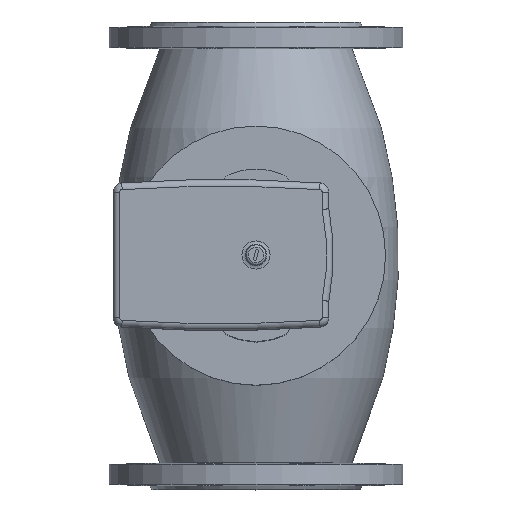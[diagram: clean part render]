
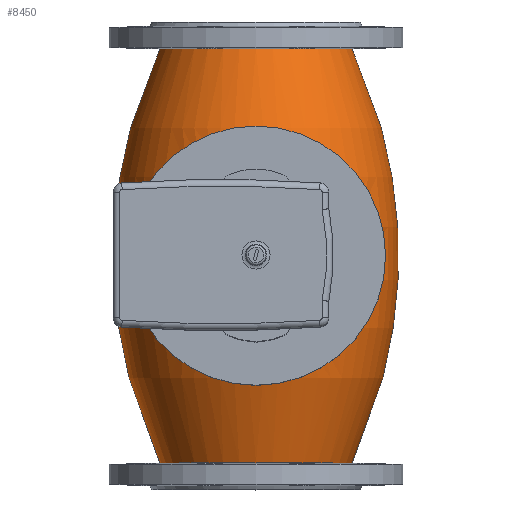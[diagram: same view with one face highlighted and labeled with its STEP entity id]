
A CAD part, top view. The second image highlights one B-rep face of the part: STEP entity #8450.
In plain terms, the highlighted toroidal (fillet/blend) face has major radius 254.79 mm and minor radius 361.583 mm.
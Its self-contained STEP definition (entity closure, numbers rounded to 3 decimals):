
#25=DEGENERATE_TOROIDAL_SURFACE('',#9136,254.79,361.583,
 .F.);
#1097=B_SPLINE_CURVE_WITH_KNOTS('',3,(#10983,#10984,#10985,#10986,#10987,
#10988,#10989,#10990,#10991,#10992,#10993,#10994,#10995,#10996,#10997,#10998,
#10999,#11000,#11001,#11002,#11003,#11004,#11005,#11006,#11007,#11008,#11009,
#11010,#11011,#11012,#11013,#11014,#11015,#11016,#11017,#11018,#11019,#11020,
#11021,#11022,#11023,#11024,#11025,#11026,#11027,#11028,#11029,#11030,#11031,
#11032,#11033,#11034,#11035,#11036,#11037,#11038,#11039,#11040,#11041,#11042,
#11043,#11044,#11045,#11046,#11047,#11048,#11049,#11050,#11051),
 .UNSPECIFIED.,.T.,.F.,(1,1,1,1,1,1,1,1,1,1,1,1,1,1,1,1,1,1,1,1,1,1,1,1,
1,1,1,1,1,1,1,1,1,1,1,1,1,1,1,1,1,1,1,1,1,1,1,1,1,1,1,1,1,1,1,1,1,1,1,1,
1,1,1,1,1,1,1,1,1,1,1,1,1),(-0.025,-0.017,-0.008,
0.,0.008,0.017,0.025,0.034,
0.042,0.051,0.059,0.068,
0.085,0.089,0.093,0.101,
0.11,0.118,0.127,0.135,
0.144,0.152,0.161,0.169,
0.178,0.186,0.195,0.203,
0.211,0.22,0.224,0.228,
0.237,0.245,0.254,0.262,
0.271,0.279,0.288,0.296,
0.304,0.313,0.321,0.33,
0.338,0.347,0.351,0.355,
0.364,0.372,0.376,0.381,
0.389,0.397,0.406,0.414,
0.423,0.431,0.44,0.448,
0.457,0.474,0.482,0.491,
0.499,0.507,0.516,0.524,
0.533,0.541,0.55,0.558,
0.567),.UNSPECIFIED.);
#2671=ORIENTED_EDGE('',*,*,#3546,.F.);
#2672=ORIENTED_EDGE('',*,*,#3547,.F.);
#2673=ORIENTED_EDGE('',*,*,#2798,.F.);
#2798=EDGE_CURVE('',#3610,#3610,#1097,.T.);
#3546=EDGE_CURVE('',#4099,#4099,#4463,.F.);
#3547=EDGE_CURVE('',#4100,#4100,#4464,.F.);
#3610=VERTEX_POINT('',#11052);
#4099=VERTEX_POINT('',#12842);
#4100=VERTEX_POINT('',#12844);
#4463=CIRCLE('',#9137,71.891);
#4464=CIRCLE('',#9138,71.88);
#4879=EDGE_LOOP('',(#2671));
#4880=EDGE_LOOP('',(#2672));
#4881=EDGE_LOOP('',(#2673));
#5378=FACE_BOUND('',#4879,.T.);
#5379=FACE_BOUND('',#4880,.T.);
#5380=FACE_BOUND('',#4881,.T.);
#8450=ADVANCED_FACE('',(#5378,#5379,#5380),#25,.F.);
#9136=AXIS2_PLACEMENT_3D('',#12840,#10862,#10863);
#9137=AXIS2_PLACEMENT_3D('',#12841,#10864,#10865);
#9138=AXIS2_PLACEMENT_3D('',#12843,#10866,#10867);
#10862=DIRECTION('',(0.,1.,0.));
#10863=DIRECTION('',(0.,0.,1.));
#10864=DIRECTION('',(0.,-1.,0.));
#10865=DIRECTION('',(0.,0.,-1.));
#10866=DIRECTION('',(0.,1.,0.));
#10867=DIRECTION('',(0.,0.,1.));
#10983=CARTESIAN_POINT('',(-58.277,-23.282,-168.591));
#10984=CARTESIAN_POINT('',(-54.535,-30.541,-165.88));
#10985=CARTESIAN_POINT('',(-50.183,-37.291,-163.004));
#10986=CARTESIAN_POINT('',(-45.272,-43.527,-160.076));
#10987=CARTESIAN_POINT('',(-39.794,-49.281,-157.164));
#10988=CARTESIAN_POINT('',(-33.673,-54.589,-154.315));
#10989=CARTESIAN_POINT('',(-27.094,-59.265,-151.686));
#10990=CARTESIAN_POINT('',(-20.074,-63.304,-149.332));
#10991=CARTESIAN_POINT('',(-12.587,-66.701,-147.296));
#10992=CARTESIAN_POINT('',(-1.909,-70.31,-145.087));
#10993=CARTESIAN_POINT('',(7.706,-72.021,-144.012));
#10994=CARTESIAN_POINT('',(16.196,-72.454,-143.74));
#10995=CARTESIAN_POINT('',(21.938,-72.453,-143.741));
#10996=CARTESIAN_POINT('',(29.002,-71.906,-144.085));
#10997=CARTESIAN_POINT('',(37.29,-70.423,-145.01));
#10998=CARTESIAN_POINT('',(45.453,-68.095,-146.447));
#10999=CARTESIAN_POINT('',(53.18,-65.024,-148.307));
#11000=CARTESIAN_POINT('',(60.469,-61.269,-150.527));
#11001=CARTESIAN_POINT('',(67.372,-56.811,-153.079));
#11002=CARTESIAN_POINT('',(73.681,-51.807,-155.827));
#11003=CARTESIAN_POINT('',(79.44,-46.277,-158.709));
#11004=CARTESIAN_POINT('',(84.694,-40.169,-161.685));
#11005=CARTESIAN_POINT('',(89.307,-33.633,-164.602));
#11006=CARTESIAN_POINT('',(93.279,-26.694,-167.366));
#11007=CARTESIAN_POINT('',(96.619,-19.315,-169.891));
#11008=CARTESIAN_POINT('',(99.299,-11.412,-172.067));
#11009=CARTESIAN_POINT('',(101.178,-3.291,-173.679));
#11010=CARTESIAN_POINT('',(102.081,3.72,-174.483));
#11011=CARTESIAN_POINT('',(102.374,9.455,-174.745));
#11012=CARTESIAN_POINT('',(102.373,15.128,-174.744));
#11013=CARTESIAN_POINT('',(101.843,22.148,-174.267));
#11014=CARTESIAN_POINT('',(100.349,30.525,-172.957));
#11015=CARTESIAN_POINT('',(98.069,38.539,-171.049));
#11016=CARTESIAN_POINT('',(95.068,46.17,-168.69));
#11017=CARTESIAN_POINT('',(91.35,53.448,-165.987));
#11018=CARTESIAN_POINT('',(87.037,60.197,-163.125));
#11019=CARTESIAN_POINT('',(82.113,66.505,-160.174));
#11020=CARTESIAN_POINT('',(76.555,72.365,-157.212));
#11021=CARTESIAN_POINT('',(70.522,77.617,-154.396));
#11022=CARTESIAN_POINT('',(63.982,82.302,-151.765));
#11023=CARTESIAN_POINT('',(56.877,86.42,-149.368));
#11024=CARTESIAN_POINT('',(49.287,89.867,-147.302));
#11025=CARTESIAN_POINT('',(41.411,92.541,-145.666));
#11026=CARTESIAN_POINT('',(34.537,94.138,-144.674));
#11027=CARTESIAN_POINT('',(28.886,95.,-144.135));
#11028=CARTESIAN_POINT('',(23.251,95.569,-143.779));
#11029=CARTESIAN_POINT('',(16.19,95.745,-143.667));
#11030=CARTESIAN_POINT('',(9.106,95.208,-144.005));
#11031=CARTESIAN_POINT('',(3.451,94.339,-144.548));
#11032=CARTESIAN_POINT('',(-2.075,93.2,-145.257));
#11033=CARTESIAN_POINT('',(-8.786,91.282,-146.44));
#11034=CARTESIAN_POINT('',(-16.578,88.189,-148.314));
#11035=CARTESIAN_POINT('',(-23.924,84.389,-150.56));
#11036=CARTESIAN_POINT('',(-30.736,79.981,-153.082));
#11037=CARTESIAN_POINT('',(-37.106,74.927,-155.857));
#11038=CARTESIAN_POINT('',(-42.899,69.341,-158.765));
#11039=CARTESIAN_POINT('',(-48.084,63.292,-161.708));
#11040=CARTESIAN_POINT('',(-52.703,56.745,-164.631));
#11041=CARTESIAN_POINT('',(-58.073,47.316,-168.375));
#11042=CARTESIAN_POINT('',(-62.046,37.225,-171.551));
#11043=CARTESIAN_POINT('',(-64.577,26.188,-173.725));
#11044=CARTESIAN_POINT('',(-65.622,17.816,-174.657));
#11045=CARTESIAN_POINT('',(-65.824,9.225,-174.84));
#11046=CARTESIAN_POINT('',(-65.141,0.681,-174.226));
#11047=CARTESIAN_POINT('',(-63.638,-7.577,-172.91));
#11048=CARTESIAN_POINT('',(-61.309,-15.67,-170.966));
#11049=CARTESIAN_POINT('',(-58.277,-23.282,-168.591));
#11050=CARTESIAN_POINT('',(-54.535,-30.541,-165.88));
#11051=CARTESIAN_POINT('',(-50.183,-37.291,-163.004));
#11052=CARTESIAN_POINT('',(-54.433,-30.456,-165.853));
#12840=CARTESIAN_POINT('',(18.328,11.605,-240.635));
#12841=CARTESIAN_POINT('',(18.328,166.595,-240.635));
#12842=CARTESIAN_POINT('',(18.328,166.595,-312.526));
#12843=CARTESIAN_POINT('',(18.328,-143.409,-240.635));
#12844=CARTESIAN_POINT('',(18.328,-143.409,-168.755));
